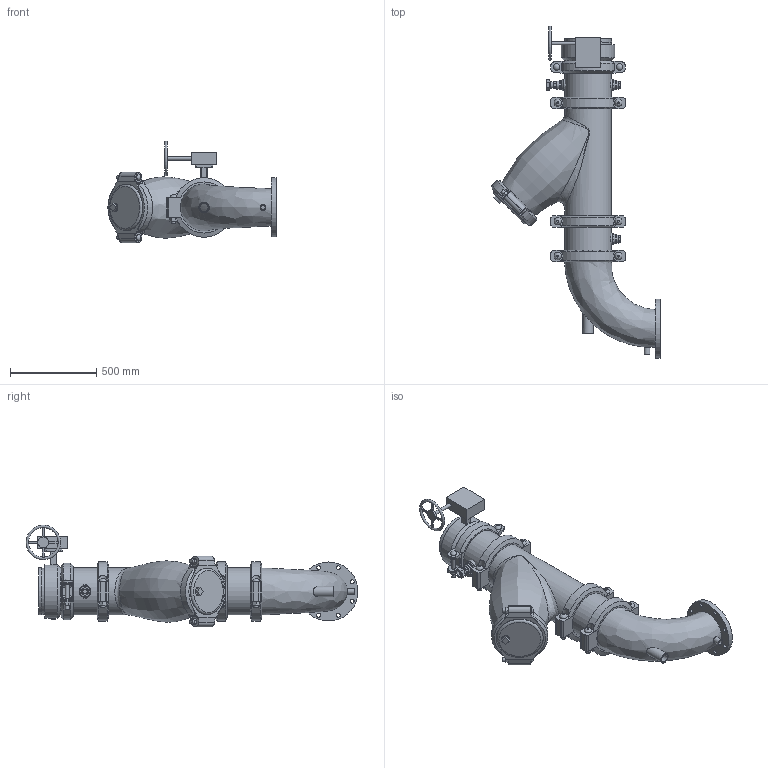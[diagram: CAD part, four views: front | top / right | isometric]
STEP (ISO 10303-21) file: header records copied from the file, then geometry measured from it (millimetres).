
FILE_DESCRIPTION(/* description */ ('VIC SVI PUMP DROP HORZ S/382 (OGSxFLG) (S/924-1.25)','CAx-IF Rec.Pracs.---Representation and Presentation of Product Manufacturing Information (PMI)---4.0---2014-10-13'),/* implementation_level */ '2;1');
FILE_NAME(/* name */ 'C:\Users\Vjadhav\AppData\Roaming\Autodesk\ApplicationPlugins\Victaulic.Temp\A115\Series 382 (OGSxFLG)_924 (1.25)_10.0x08.0 (250x200).stp',/* time_stamp */ '2022-03-17T12:21:03+06:00',/* author */ ('kkamble'),/* organization */ ('Victaulic'),/* preprocessor_version */ 'ST-DEVELOPER v17.2',/* originating_system */ 'Autodesk Inventor 2019',/* authorisation */ '');
FILE_SCHEMA (('CONFIG_CONTROL_DESIGN','AP242_MANAGED_MODEL_BASED_3D_ENGINEERING_MIM_LF { 1 0 10303 442 1 1 4 }'));
Length unit declared in the file: inch
Products named in the file (13): 382_924 (1.25)-10.0x08.0; PIPE-10.0; 107N-10.0; 732-10.0; 732-10.0_1; 07-10.0; 732-10.0_2; 077-10.0; PIPE-10.2; 761-10.0; 924-10.0x01.25; 923-10.0x0.75; R100F-10.0x08.0
Assembly tree (15 placements, depth 3):
  382_924 (1.25)-10.0x08.0
    PIPE-10.0
    107N-10.0
    732-10.0
      732-10.0_1
      07-10.0
      732-10.0_2
    077-10.0  x3
    PIPE-10.2
    761-10.0
    924-10.0x01.25
    923-10.0x0.75  x2
    R100F-10.0x08.0
Bounding box: 977.89 x 1929.43 x 591.16 mm (x, y, z)
Volume: 37175561.2 mm3; surface area: 5898229.4 mm2
Topology: 14 solids, 24 shells, 757 faces, 1892 edges, 1278 vertices
Faces by surface type: plane 427, cylinder 254, bspline 36, cone 27, torus 9, sphere 4
Full cylindrical faces by diameter (mm): 10.922 x4, 12.7 x1, 20.066 x1, 21.336 x3, 22.225 x8, 22.352 x8, 22.86 x1, 25.4 x12, 26.67 x4, 27.432 x6, 34.29 x1, 37.694 x4, 38.608 x1, 42.164 x1, 45.974 x6, 48.26 x1, 48.514 x1, 50.8 x1, 55.626 x3, 60.96 x1, 63.079 x1, 70.104 x1, 76.2 x2, 202.717 x1, 241.3 x1, 254.508 x5, 254.762 x1, 260.35 x2, 264.16 x3, 268.275 x11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
Entity records: 24703 total; most frequent: CARTESIAN_POINT 9214, DIRECTION 3117, ORIENTED_EDGE 2912, EDGE_CURVE 1456, AXIS2_PLACEMENT_3D 1195, VERTEX_POINT 987, LINE 727, VECTOR 727
